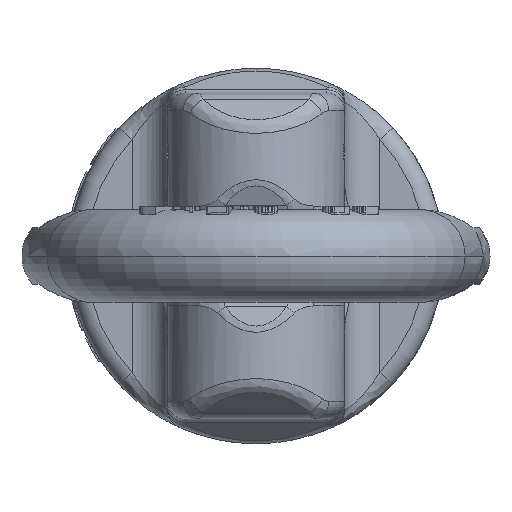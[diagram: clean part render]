
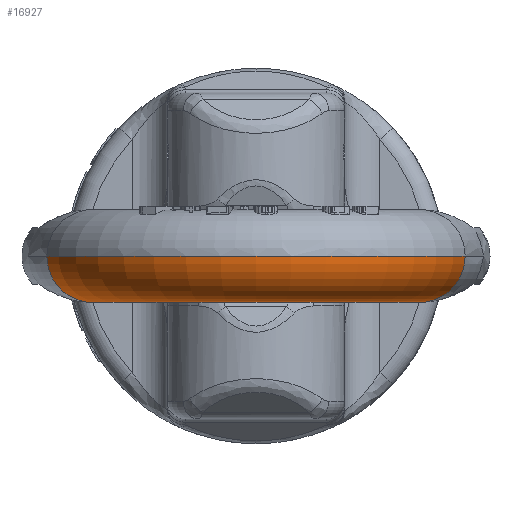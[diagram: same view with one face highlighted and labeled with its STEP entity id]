
A CAD part, left-side view. The second image highlights one B-rep face of the part: STEP entity #16927.
In plain terms, the highlighted toroidal (fillet/blend) face has major radius 24 mm and minor radius 6.5 mm.
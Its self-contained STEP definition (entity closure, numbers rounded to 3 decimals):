
#12256=CARTESIAN_POINT('',(-57.5,0.,0.));
#12257=DIRECTION('',(0.,0.,1.));
#12258=DIRECTION('',(-0.25,0.968,0.));
#12259=AXIS2_PLACEMENT_3D('',#12256,#12257,#12258);
#13303=CARTESIAN_POINT('',(-63.5,-23.238,0.));
#13304=DIRECTION('',(0.968,-0.25,0.));
#13305=DIRECTION('',(-0.25,-0.968,0.));
#13306=AXIS2_PLACEMENT_3D('',#13303,#13304,#13305);
#13628=CARTESIAN_POINT('',(-63.5,23.238,0.));
#13629=DIRECTION('',(-0.968,-0.25,0.));
#13630=DIRECTION('',(-0.25,0.968,0.));
#13631=AXIS2_PLACEMENT_3D('',#13628,#13629,#13630);
#13633=CARTESIAN_POINT('',(-57.5,0.,0.));
#13634=DIRECTION('',(0.,0.,1.));
#13635=DIRECTION('',(-0.25,0.968,0.));
#13636=AXIS2_PLACEMENT_3D('',#13633,#13634,#13635);
#15640=CARTESIAN_POINT('',(-61.875,16.944,0.));
#15641=CARTESIAN_POINT('',(-65.125,29.531,0.));
#15642=VERTEX_POINT('',#15640);
#15643=VERTEX_POINT('',#15641);
#15644=CARTESIAN_POINT('',(-61.875,-16.944,0.));
#15645=CARTESIAN_POINT('',(-65.125,-29.531,0.));
#15646=VERTEX_POINT('',#15644);
#15647=VERTEX_POINT('',#15645);
#16916=CARTESIAN_POINT('',(-57.5,0.,0.));
#16917=DIRECTION('',(0.,0.,1.));
#16918=DIRECTION('',(0.25,-0.968,0.));
#16919=AXIS2_PLACEMENT_3D('',#16916,#16917,#16918);
#16920=TOROIDAL_SURFACE('',#16919,24.,6.5);
#16921=ORIENTED_EDGE('',*,*,#16752,.F.);
#16922=ORIENTED_EDGE('',*,*,#16415,.T.);
#16923=ORIENTED_EDGE('',*,*,#16786,.T.);
#16924=ORIENTED_EDGE('',*,*,#16412,.F.);
#16925=EDGE_LOOP('',(#16921,#16922,#16923,#16924));
#16926=FACE_OUTER_BOUND('',#16925,.F.);
#16927=ADVANCED_FACE('',(#16926),#16920,.T.);
#12260=CIRCLE('',#12259,17.5);
#13307=CIRCLE('',#13306,6.5);
#13632=CIRCLE('',#13631,6.5);
#13637=CIRCLE('',#13636,30.5);
#16412=EDGE_CURVE('',#15642,#15646,#12260,.T.);
#16415=EDGE_CURVE('',#15643,#15647,#13637,.T.);
#16752=EDGE_CURVE('',#15643,#15642,#13632,.T.);
#16786=EDGE_CURVE('',#15647,#15646,#13307,.T.);
